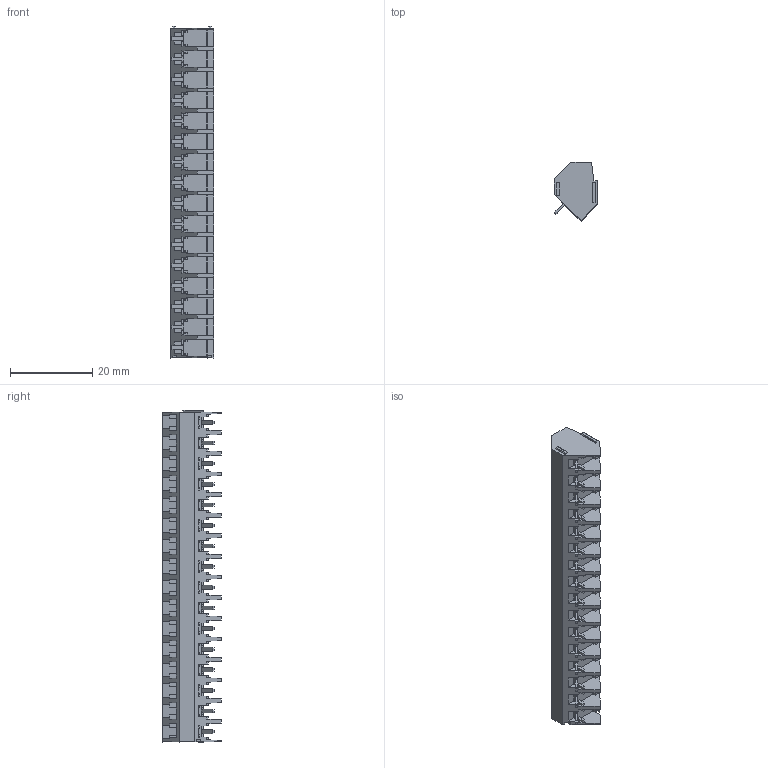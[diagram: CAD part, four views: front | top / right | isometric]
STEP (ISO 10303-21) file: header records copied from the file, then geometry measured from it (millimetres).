
FILE_DESCRIPTION (( 'STEP AP214' ), '1' );
FILE_NAME ('140-C-111-16.STEP', '2007-11-13T06:53:07', ( ' ' ), ( '' ), 'SwSTEP 2.0', 'SolidWorks 2007', '' );
FILE_SCHEMA (( 'AUTOMOTIVE_DESIGN' ));
Products named in the file (1): 140-C-111-16
Bounding box: 10.5 x 14.2 x 80.5 mm (x, y, z)
Volume: 5733.1 mm3; surface area: 6704.1 mm2
Topology: 1 solids, 1 shells, 1934 faces, 5586 edges, 3624 vertices
Faces by surface type: plane 1574, cylinder 232, bspline 80, cone 48
Entity records: 65577 total; most frequent: CARTESIAN_POINT 15313, ORIENTED_EDGE 11172, DIRECTION 9560, EDGE_CURVE 5586, VECTOR 4682, LINE 4682, VERTEX_POINT 3624, AXIS2_PLACEMENT_3D 2439
